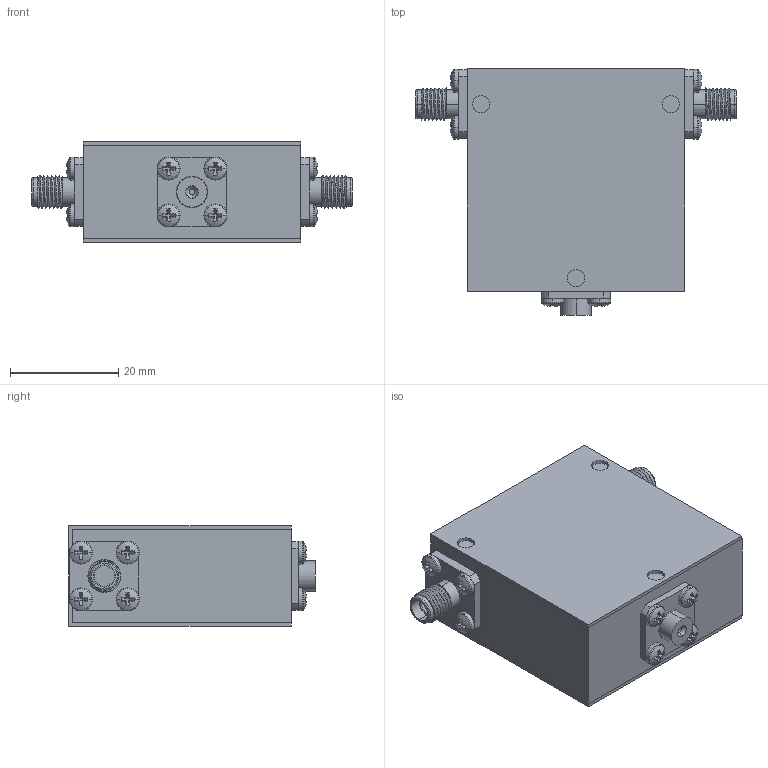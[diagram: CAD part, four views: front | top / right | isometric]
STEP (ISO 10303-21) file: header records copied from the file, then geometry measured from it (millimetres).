
FILE_DESCRIPTION (( 'STEP AP214' ), '1' );
FILE_NAME ('Package 7 Iso FF.step', '2021-12-01T21:01:55', ( '' ), ( '' ), 'SwSTEP 2.0', 'SolidWorks 2016', '' );
FILE_SCHEMA (( 'AUTOMOTIVE_DESIGN' ));
Length unit declared in the file: inch
Products named in the file (6): Package 7; 030013-1A; pan cross head_ai_CR-PHMS 0.086-56x0.125x0.125-N; Delta SMA-Female 0.500 flange Threaded; Package 7 Iso FF; Package Size 7
Assembly tree (17 placements, depth 2):
  Package 7 Iso FF
    Package Size 7
    Package 7
    Delta SMA-Female 0.500 flange Threaded  x2
    030013-1A
    pan cross head_ai_CR-PHMS 0.086-56x0.125x0.125-N  x12
Bounding box: 59.18 x 45.59 x 18.54 mm (x, y, z)
Volume: 31735.8 mm3; surface area: 16792.3 mm2
Topology: 17 solids, 17 shells, 414 faces, 942 edges, 582 vertices
Faces by surface type: plane 228, cylinder 122, torus 30, sphere 24, bspline 6, cone 4
Entity records: 4765 total; most frequent: CARTESIAN_POINT 1369, DIRECTION 717, ORIENTED_EDGE 594, EDGE_CURVE 297, AXIS2_PLACEMENT_3D 289, VERTEX_POINT 191, EDGE_LOOP 160, CIRCLE 150
